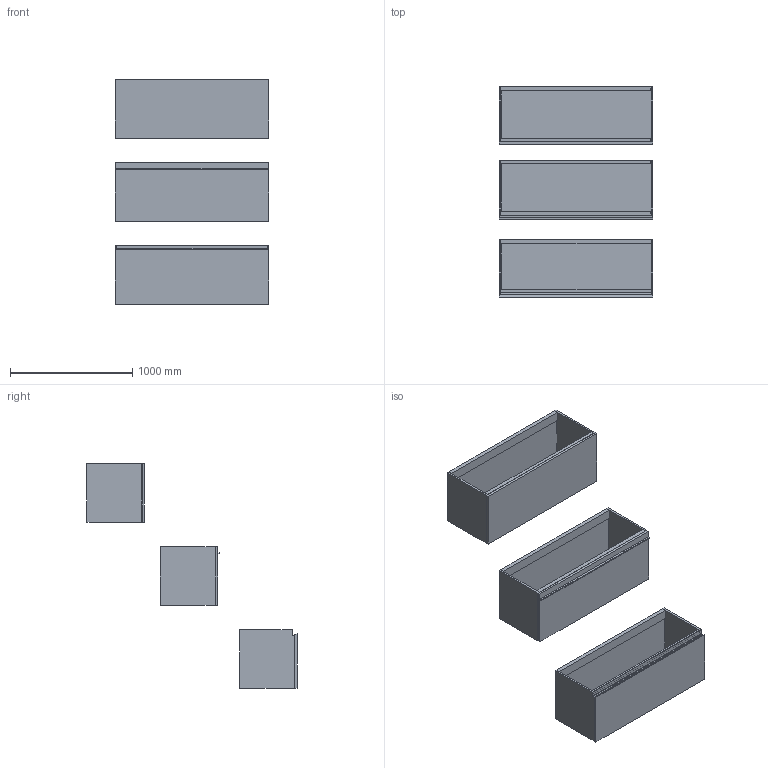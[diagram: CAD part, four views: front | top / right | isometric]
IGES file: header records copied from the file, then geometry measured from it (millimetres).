
Start section: Data from Parasolid IGES Translator 19.0.9, Copyright(c) 2006 Siemens PL M Software. All Rights Reserved.
Global section: file name: noorth-SI-H 48 D 47 W 126_8466.igs; native system: By Siemens PLM Incorporated; preprocessor: XPlus GENERIC/IGES 19.0.9; author: Noname; organization: Noname; date: 20200601.104620; units: metre
Bounding box: 1260 x 1719.1 x 1840.01 mm (x, y, z)
Volume: 96215287.2 mm3; surface area: 14648255.8 mm2
Topology: 23 solids, 23 shells, 196 faces, 418 edges, 258 vertices
Faces by surface type: plane 152, extrusion 16, bspline 16, cylinder 12
